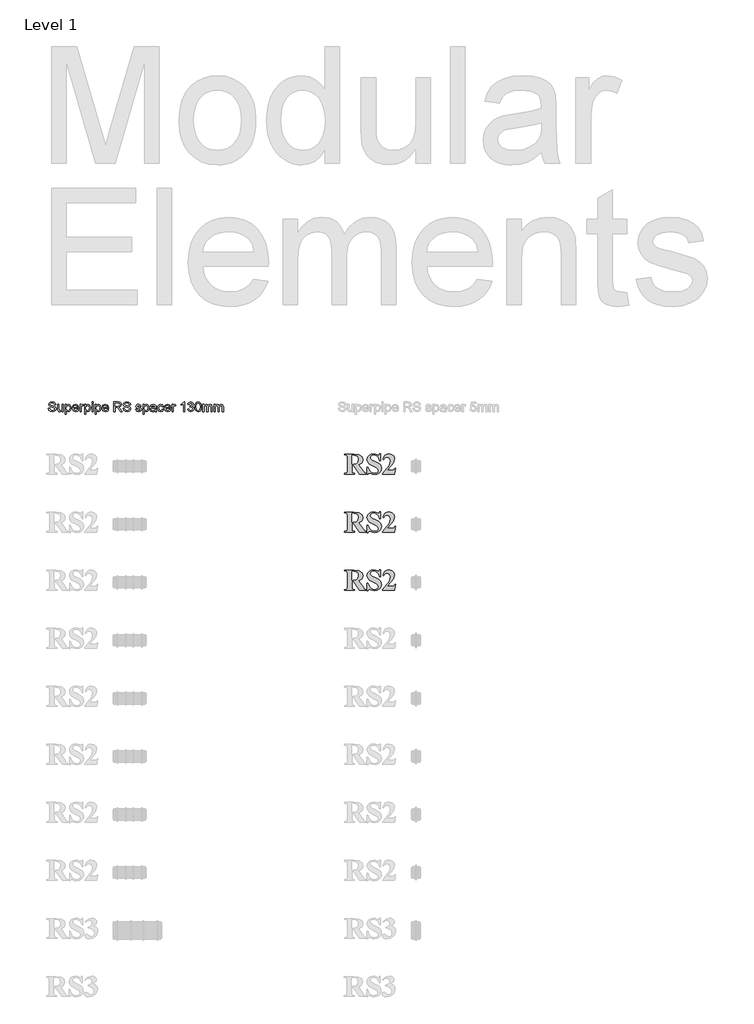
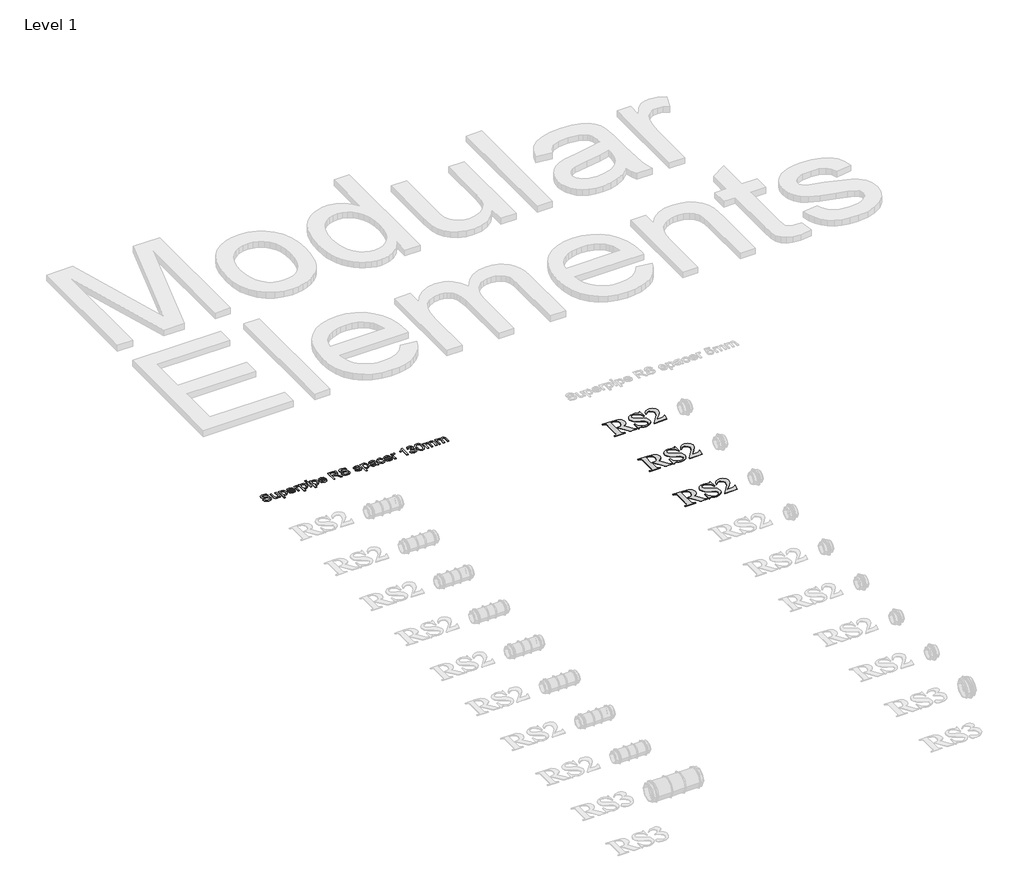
# One storey, part 51 of 57: 4 proxies.
"""IFC4 building model written with IfcOpenShell, lengths in millimetres."""

from ifc_helpers import new_model, si_unit, frame, origin, place, context, project, spatial, polyline, outline, extrude, element, save

model = new_model("IFC4")

# Units and contexts
model_context = context("Model", 3, world=origin())
ifc_project = project(units=[si_unit("LENGTHUNIT", "METRE", prefix="MILLI")], contexts=[model_context])

# Site, building, storey
site = spatial("IfcSite", under=ifc_project)
building = spatial("IfcBuilding", under=site)
storey = spatial("IfcBuildingStorey", under=building, Name="Level 1", Elevation=27.3876384)

# Proxies
placement = place(None, origin())
element("IfcBuildingElementProxy", 1, Name="100mm Arial", ObjectType="100mm Arial", at=placement, inside=storey, context=model_context, shape_type="SweptSolid", body=[
    extrude(outline(polyline([(42400.0811889, 18653.3090579), (42400.0811889, 18623.6453109), (42401.0899744, 18614.034584), (42404.6207237, 18610.8719051), (42414.0405993, 18609.6859006), (42414.0405993, 18606.196048), (42361.6928105, 18606.196048), (42361.6928105, 18609.6859006), (42371.1535827, 18610.8991696), (42374.6434353, 18614.0618485), (42375.6522208, 18623.6453109), (42375.6522208, 18691.6974363), (42374.6434353, 18701.3081631), (42371.112686, 18704.470842), (42361.6928105, 18705.6568466), (42361.6928105, 18709.1466992), (42409.2693164, 18709.1466992), (42436.4383641, 18706.6111032), (42450.4795678, 18697.2457566), (42455.9188303, 18681.2278785), (42454.003501, 18670.9968849), (42448.2575133, 18662.7153011), (42434.5707477, 18655.7628605), (42458.9997158, 18620.946128), (42465.1887512, 18612.3305545), (42471.6231669, 18609.6859006), (42471.6231669, 18606.196048), (42439.88732, 18606.196048), (42406.8427783, 18653.3090579), (42400.0811889, 18653.3090579)]), holes=[polyline([(42400.0811889, 18703.9119203), (42400.0811889, 18658.5438367), (42404.4162402, 18658.5438367), (42420.2432669, 18660.4932466), (42428.4907701, 18667.5138484), (42431.4898622, 18680.7643825), (42430.1130063, 18691.0533131), (42425.9824386, 18698.2545421), (42418.7846176, 18702.4975758), (42408.206002, 18703.9119203), (42400.0811889, 18703.9119203)])]), frame((0.0, 0.0, 27.3876384), z_axis=(0.0, 0.0, 1.0), x_axis=(1.0, 0.0, 0.0)), (0.0, 0.0, 1.0), 2.0),
    extrude(outline(polyline([(42546.6549975, 18710.8916255), (42546.6549975, 18675.9930996), (42543.1651449, 18675.9930996), (42539.1504512, 18688.0678533), (42531.7413306, 18697.5184013), (42522.26011, 18703.6222353), (42512.0291163, 18705.6568466), (42499.0784915, 18701.5535434), (42494.3072087, 18692.1064034), (42496.052135, 18686.0809548), (42503.7679809, 18679.0739851), (42521.7625333, 18670.2402958), (42537.875837, 18661.6792512), (42546.7367909, 18653.6089671), (42551.8897763, 18635.6962081), (42549.3609964, 18623.7816333), (42541.7746567, 18613.6665137), (42530.2894974, 18606.7549697), (42516.0642584, 18604.4511217), (42506.8352342, 18605.5553328), (42495.9158126, 18609.7404295), (42489.890364, 18611.4308268), (42485.6780029, 18609.713165), (42482.0927247, 18604.4511217), (42478.6028721, 18604.4511217), (42478.6028721, 18642.8395001), (42482.0927247, 18642.8395001), (42487.1673247, 18628.5904047), (42495.4659488, 18618.178784), (42505.7616955, 18611.8091214), (42516.8276637, 18609.6859006), (42530.9370286, 18614.2799643), (42536.1854397, 18624.9812701), (42534.072443, 18631.9882397), (42527.6516596, 18638.4226554), (42512.3835545, 18646.3838816), (42491.0354719, 18658.0121795), (42481.8200799, 18668.7134853), (42478.6028721, 18681.718639), (42480.9305765, 18692.948194), (42487.9136897, 18702.3714776), (42498.4411845, 18708.7615885), (42511.4020335, 18710.8916255), (42521.4080952, 18709.6919887), (42530.3644747, 18706.3520907), (42537.7667792, 18703.9119203), (42540.983987, 18705.1115571), (42543.1651449, 18710.8916255), (42546.6549975, 18710.8916255)])), frame((0.0, 0.0, 27.3876384), z_axis=(0.0, 0.0, 1.0), x_axis=(1.0, 0.0, 0.0)), (0.0, 0.0, 1.0), 2.0),
    extrude(outline(polyline([(42618.9876452, 18606.196048), (42557.1245552, 18606.196048), (42557.1245552, 18607.9409743), (42592.8955442, 18652.5456526), (42599.0027862, 18674.9297852), (42593.7816396, 18688.166687), (42581.0354983, 18693.4423626), (42570.0479156, 18690.5114317), (42561.8413091, 18681.718639), (42559.0330683, 18682.7274246), (42564.2917036, 18695.2281856), (42571.7246807, 18703.9937137), (42580.902584, 18709.1671476), (42591.3959982, 18710.8916255), (42605.9279624, 18707.3063472), (42616.2203011, 18697.4911369), (42619.9419017, 18685.80831), (42614.4344781, 18665.6598643), (42602.4312937, 18649.1171451), (42581.5262588, 18627.1351635), (42603.5014243, 18627.1351635), (42614.0391432, 18627.7349819), (42618.0470208, 18629.7798174), (42622.1775885, 18635.8597949), (42625.1766806, 18635.8597949), (42618.9876452, 18606.196048)])), frame((0.0, 0.0, 27.3876384), z_axis=(0.0, 0.0, 1.0), x_axis=(1.0, 0.0, 0.0)), (0.0, 0.0, 1.0), 2.0),
])
element("IfcBuildingElementProxy", 2, Name="100mm Arial", ObjectType="100mm Arial", at=placement, inside=storey, context=model_context, shape_type="SweptSolid", body=[
    extrude(outline(polyline([(42400.0811889, 18353.3090579), (42400.0811889, 18323.6453109), (42401.0899744, 18314.034584), (42404.6207237, 18310.8719051), (42414.0405993, 18309.6859006), (42414.0405993, 18306.196048), (42361.6928105, 18306.196048), (42361.6928105, 18309.6859006), (42371.1535827, 18310.8991696), (42374.6434353, 18314.0618485), (42375.6522208, 18323.6453109), (42375.6522208, 18391.6974363), (42374.6434353, 18401.3081631), (42371.112686, 18404.470842), (42361.6928105, 18405.6568466), (42361.6928105, 18409.1466992), (42409.2693164, 18409.1466992), (42436.4383641, 18406.6111032), (42450.4795678, 18397.2457566), (42455.9188303, 18381.2278785), (42454.003501, 18370.9968849), (42448.2575133, 18362.7153011), (42434.5707477, 18355.7628605), (42458.9997158, 18320.946128), (42465.1887512, 18312.3305545), (42471.6231669, 18309.6859006), (42471.6231669, 18306.196048), (42439.88732, 18306.196048), (42406.8427783, 18353.3090579), (42400.0811889, 18353.3090579)]), holes=[polyline([(42400.0811889, 18403.9119203), (42400.0811889, 18358.5438367), (42404.4162402, 18358.5438367), (42420.2432669, 18360.4932466), (42428.4907701, 18367.5138484), (42431.4898622, 18380.7643825), (42430.1130063, 18391.0533131), (42425.9824386, 18398.2545421), (42418.7846176, 18402.4975758), (42408.206002, 18403.9119203), (42400.0811889, 18403.9119203)])]), frame((0.0, 0.0, 27.3876384), z_axis=(0.0, 0.0, 1.0), x_axis=(1.0, 0.0, 0.0)), (0.0, 0.0, 1.0), 2.0),
    extrude(outline(polyline([(42546.6549975, 18410.8916255), (42546.6549975, 18375.9930996), (42543.1651449, 18375.9930996), (42539.1504512, 18388.0678533), (42531.7413306, 18397.5184013), (42522.26011, 18403.6222353), (42512.0291163, 18405.6568466), (42499.0784915, 18401.5535434), (42494.3072087, 18392.1064034), (42496.052135, 18386.0809548), (42503.7679809, 18379.0739851), (42521.7625333, 18370.2402958), (42537.875837, 18361.6792512), (42546.7367909, 18353.6089671), (42551.8897763, 18335.6962081), (42549.3609964, 18323.7816333), (42541.7746567, 18313.6665137), (42530.2894974, 18306.7549697), (42516.0642584, 18304.4511217), (42506.8352342, 18305.5553328), (42495.9158126, 18309.7404295), (42489.890364, 18311.4308268), (42485.6780029, 18309.713165), (42482.0927247, 18304.4511217), (42478.6028721, 18304.4511217), (42478.6028721, 18342.8395001), (42482.0927247, 18342.8395001), (42487.1673247, 18328.5904047), (42495.4659488, 18318.178784), (42505.7616955, 18311.8091214), (42516.8276637, 18309.6859006), (42530.9370286, 18314.2799643), (42536.1854397, 18324.9812701), (42534.072443, 18331.9882397), (42527.6516596, 18338.4226554), (42512.3835545, 18346.3838816), (42491.0354719, 18358.0121795), (42481.8200799, 18368.7134853), (42478.6028721, 18381.718639), (42480.9305765, 18392.948194), (42487.9136897, 18402.3714776), (42498.4411845, 18408.7615885), (42511.4020335, 18410.8916255), (42521.4080952, 18409.6919887), (42530.3644747, 18406.3520907), (42537.7667792, 18403.9119203), (42540.983987, 18405.1115571), (42543.1651449, 18410.8916255), (42546.6549975, 18410.8916255)])), frame((0.0, 0.0, 27.3876384), z_axis=(0.0, 0.0, 1.0), x_axis=(1.0, 0.0, 0.0)), (0.0, 0.0, 1.0), 2.0),
    extrude(outline(polyline([(42618.9876452, 18306.196048), (42557.1245552, 18306.196048), (42557.1245552, 18307.9409743), (42592.8955442, 18352.5456526), (42599.0027862, 18374.9297852), (42593.7816396, 18388.166687), (42581.0354983, 18393.4423626), (42570.0479156, 18390.5114317), (42561.8413091, 18381.718639), (42559.0330683, 18382.7274246), (42564.2917036, 18395.2281856), (42571.7246807, 18403.9937137), (42580.902584, 18409.1671476), (42591.3959982, 18410.8916255), (42605.9279624, 18407.3063472), (42616.2203011, 18397.4911369), (42619.9419017, 18385.80831), (42614.4344781, 18365.6598643), (42602.4312937, 18349.1171451), (42581.5262588, 18327.1351635), (42603.5014243, 18327.1351635), (42614.0391432, 18327.7349819), (42618.0470208, 18329.7798174), (42622.1775885, 18335.8597949), (42625.1766806, 18335.8597949), (42618.9876452, 18306.196048)])), frame((0.0, 0.0, 27.3876384), z_axis=(0.0, 0.0, 1.0), x_axis=(1.0, 0.0, 0.0)), (0.0, 0.0, 1.0), 2.0),
])
element("IfcBuildingElementProxy", 3, Name="100mm Arial", ObjectType="100mm Arial", at=placement, inside=storey, context=model_context, shape_type="SweptSolid", body=[
    extrude(outline(polyline([(42400.0811889, 18053.3090579), (42400.0811889, 18023.6453109), (42401.0899744, 18014.034584), (42404.6207237, 18010.8719051), (42414.0405993, 18009.6859006), (42414.0405993, 18006.196048), (42361.6928105, 18006.196048), (42361.6928105, 18009.6859006), (42371.1535827, 18010.8991696), (42374.6434353, 18014.0618485), (42375.6522208, 18023.6453109), (42375.6522208, 18091.6974363), (42374.6434353, 18101.3081631), (42371.112686, 18104.470842), (42361.6928105, 18105.6568466), (42361.6928105, 18109.1466992), (42409.2693164, 18109.1466992), (42436.4383641, 18106.6111032), (42450.4795678, 18097.2457566), (42455.9188303, 18081.2278785), (42454.003501, 18070.9968849), (42448.2575133, 18062.7153011), (42434.5707477, 18055.7628605), (42458.9997158, 18020.946128), (42465.1887512, 18012.3305545), (42471.6231669, 18009.6859006), (42471.6231669, 18006.196048), (42439.88732, 18006.196048), (42406.8427783, 18053.3090579), (42400.0811889, 18053.3090579)]), holes=[polyline([(42400.0811889, 18103.9119203), (42400.0811889, 18058.5438367), (42404.4162402, 18058.5438367), (42420.2432669, 18060.4932466), (42428.4907701, 18067.5138484), (42431.4898622, 18080.7643825), (42430.1130063, 18091.0533131), (42425.9824386, 18098.2545421), (42418.7846176, 18102.4975758), (42408.206002, 18103.9119203), (42400.0811889, 18103.9119203)])]), frame((0.0, 0.0, 27.3876384), z_axis=(0.0, 0.0, 1.0), x_axis=(1.0, 0.0, 0.0)), (0.0, 0.0, 1.0), 2.0),
    extrude(outline(polyline([(42546.6549975, 18110.8916255), (42546.6549975, 18075.9930996), (42543.1651449, 18075.9930996), (42539.1504512, 18088.0678533), (42531.7413306, 18097.5184013), (42522.26011, 18103.6222353), (42512.0291163, 18105.6568466), (42499.0784915, 18101.5535434), (42494.3072087, 18092.1064034), (42496.052135, 18086.0809548), (42503.7679809, 18079.0739851), (42521.7625333, 18070.2402958), (42537.875837, 18061.6792512), (42546.7367909, 18053.6089671), (42551.8897763, 18035.6962081), (42549.3609964, 18023.7816333), (42541.7746567, 18013.6665137), (42530.2894974, 18006.7549697), (42516.0642584, 18004.4511217), (42506.8352342, 18005.5553328), (42495.9158126, 18009.7404295), (42489.890364, 18011.4308268), (42485.6780029, 18009.713165), (42482.0927247, 18004.4511217), (42478.6028721, 18004.4511217), (42478.6028721, 18042.8395001), (42482.0927247, 18042.8395001), (42487.1673247, 18028.5904047), (42495.4659488, 18018.178784), (42505.7616955, 18011.8091214), (42516.8276637, 18009.6859006), (42530.9370286, 18014.2799643), (42536.1854397, 18024.9812701), (42534.072443, 18031.9882397), (42527.6516596, 18038.4226554), (42512.3835545, 18046.3838816), (42491.0354719, 18058.0121795), (42481.8200799, 18068.7134853), (42478.6028721, 18081.718639), (42480.9305765, 18092.948194), (42487.9136897, 18102.3714776), (42498.4411845, 18108.7615885), (42511.4020335, 18110.8916255), (42521.4080952, 18109.6919887), (42530.3644747, 18106.3520907), (42537.7667792, 18103.9119203), (42540.983987, 18105.1115571), (42543.1651449, 18110.8916255), (42546.6549975, 18110.8916255)])), frame((0.0, 0.0, 27.3876384), z_axis=(0.0, 0.0, 1.0), x_axis=(1.0, 0.0, 0.0)), (0.0, 0.0, 1.0), 2.0),
    extrude(outline(polyline([(42618.9876452, 18006.196048), (42557.1245552, 18006.196048), (42557.1245552, 18007.9409743), (42592.8955442, 18052.5456526), (42599.0027862, 18074.9297852), (42593.7816396, 18088.166687), (42581.0354983, 18093.4423626), (42570.0479156, 18090.5114317), (42561.8413091, 18081.718639), (42559.0330683, 18082.7274246), (42564.2917036, 18095.2281856), (42571.7246807, 18103.9937137), (42580.902584, 18109.1671476), (42591.3959982, 18110.8916255), (42605.9279624, 18107.3063472), (42616.2203011, 18097.4911369), (42619.9419017, 18085.80831), (42614.4344781, 18065.6598643), (42602.4312937, 18049.1171451), (42581.5262588, 18027.1351635), (42603.5014243, 18027.1351635), (42614.0391432, 18027.7349819), (42618.0470208, 18029.7798174), (42622.1775885, 18035.8597949), (42625.1766806, 18035.8597949), (42618.9876452, 18006.196048)])), frame((0.0, 0.0, 27.3876384), z_axis=(0.0, 0.0, 1.0), x_axis=(1.0, 0.0, 0.0)), (0.0, 0.0, 1.0), 2.0),
])
element("IfcBuildingElementProxy", 4, Name="50mm Arial", ObjectType="50mm Arial", at=placement, inside=storey, context=model_context, shape_type="SweptSolid", body=[
    extrude(outline(polyline([(40829.6871322, 18946.7630144), (40835.9656516, 18946.7630144), (40837.9890026, 18940.4783637), (40842.930884, 18936.5052381), (40850.4602022, 18934.9907906), (40857.0207645, 18936.1373562), (40861.2575388, 18939.2888786), (40862.649359, 18943.5011274), (40861.6070267, 18947.4190707), (40857.3395955, 18950.2701561), (40848.1977279, 18952.6675205), (40838.3568846, 18955.7638606), (40833.0164643, 18960.4359619), (40831.2567621, 18966.6776931), (40833.4333972, 18973.783947), (40839.7916244, 18978.7994049), (40849.0990388, 18980.5100561), (40859.0318527, 18978.7196971), (40865.6537286, 18973.4589846), (40868.1430635, 18965.5985726), (40861.8645441, 18965.5985726), (40858.3083514, 18972.0487702), (40849.3442935, 18974.2315368), (40840.3557101, 18972.0732957), (40837.5352815, 18966.8616341), (40839.534107, 18962.5083638), (40849.7857519, 18959.0012222), (40860.8957881, 18955.8496997), (40866.9719724, 18950.7606655), (40868.9278784, 18943.660543), (40866.6776668, 18936.1496189), (40860.2029437, 18930.6681772), (40850.7054569, 18928.7122712), (40839.4911874, 18930.8214613), (40832.3971963, 18937.1735571), (40829.6871322, 18946.7630144)])), frame((0.0, 0.0, 27.3876384), z_axis=(0.0, 0.0, 1.0), x_axis=(1.0, 0.0, 0.0)), (0.0, 0.0, 1.0), 2.0),
    extrude(outline(polyline([(40901.1052902, 18929.4970861), (40901.1052902, 18935.8369192), (40896.1879342, 18930.4934332), (40889.7745248, 18928.7122712), (40883.8700187, 18929.96307), (40879.7987913, 18933.1023297), (40877.9287245, 18937.7253801), (40877.5608425, 18943.5624411), (40877.5608425, 18966.3833875), (40883.8393619, 18966.3833875), (40883.8393619, 18946.5177598), (40884.2195066, 18940.1166131), (40886.7027101, 18936.3580853), (40891.3809428, 18934.9907906), (40896.6232612, 18936.3887422), (40900.0874834, 18940.1963208), (40901.1052902, 18947.1922101), (40901.1052902, 18966.3833875), (40907.3838096, 18966.3833875), (40907.3838096, 18929.4970861), (40901.1052902, 18929.4970861)])), frame((0.0, 0.0, 27.3876384), z_axis=(0.0, 0.0, 1.0), x_axis=(1.0, 0.0, 0.0)), (0.0, 0.0, 1.0), 2.0),
    extrude(outline(polyline([(40916.0167738, 18915.3704175), (40916.0167738, 18966.3833875), (40922.2952931, 18966.3833875), (40922.2952931, 18960.2274955), (40926.6363007, 18965.4330257), (40932.4978871, 18967.1682024), (40940.456401, 18964.7401813), (40945.6557998, 18957.8975762), (40947.4093707, 18948.2222797), (40945.4289393, 18938.0503425), (40939.6777174, 18931.1218983), (40931.7375977, 18928.7122712), (40926.2745501, 18930.3248206), (40922.2952931, 18934.4021794), (40922.2952931, 18915.3704175), (40916.0167738, 18915.3704175)]), holes=[polyline([(40922.2952931, 18947.6459312), (40925.0114885, 18938.0809994), (40931.6027076, 18934.9907906), (40938.3288168, 18938.191364), (40941.1308513, 18948.1119151), (40938.3962618, 18957.7013724), (40931.860225, 18960.8896831), (40925.1954295, 18957.4990373), (40922.2952931, 18947.6459312)])]), frame((0.0, 0.0, 27.3876384), z_axis=(0.0, 0.0, 1.0), x_axis=(1.0, 0.0, 0.0)), (0.0, 0.0, 1.0), 2.0),
    extrude(outline(polyline([(40980.298021, 18940.4844951), (40986.4539131, 18939.6996801), (40980.6965599, 18931.5940135), (40969.9727997, 18928.7122712), (40956.9375144, 18933.6848095), (40952.1182602, 18947.6336685), (40956.9865653, 18962.04238), (40969.6171805, 18967.1682024), (40981.886045, 18962.0546427), (40986.6501168, 18947.6704567), (40986.6133286, 18945.9781995), (40958.3967796, 18945.9781995), (40962.0081545, 18937.823482), (40970.095427, 18934.9907906), (40976.2513191, 18936.3029031), (40980.298021, 18940.4844951)]), holes=[polyline([(40958.3967796, 18952.2567189), (40980.3715974, 18952.2567189), (40977.8577371, 18957.9466271), (40969.592655, 18960.8896831), (40961.8610017, 18958.5413697), (40958.3967796, 18952.2567189)])]), frame((0.0, 0.0, 27.3876384), z_axis=(0.0, 0.0, 1.0), x_axis=(1.0, 0.0, 0.0)), (0.0, 0.0, 1.0), 2.0),
    extrude(outline(polyline([(40992.9286362, 18929.4970861), (40992.9286362, 18966.3833875), (40998.4223407, 18966.3833875), (40998.4223407, 18960.9264713), (41002.3218898, 18965.9541919), (41006.2459644, 18967.1682024), (41012.5490093, 18965.2306906), (41010.4520819, 18959.6020961), (41006.037498, 18960.8896831), (41002.4874367, 18959.651147), (41000.2249625, 18956.2175817), (40999.2071556, 18948.8844673), (40999.2071556, 18929.4970861), (40992.9286362, 18929.4970861)])), frame((0.0, 0.0, 27.3876384), z_axis=(0.0, 0.0, 1.0), x_axis=(1.0, 0.0, 0.0)), (0.0, 0.0, 1.0), 2.0),
    extrude(outline(polyline([(41016.4730839, 18915.3704175), (41016.4730839, 18966.3833875), (41022.7516033, 18966.3833875), (41022.7516033, 18960.2274955), (41027.0926108, 18965.4330257), (41032.9541973, 18967.1682024), (41040.9127111, 18964.7401813), (41046.11211, 18957.8975762), (41047.8656808, 18948.2222797), (41045.8852494, 18938.0503425), (41040.1340276, 18931.1218983), (41032.1939078, 18928.7122712), (41026.7308602, 18930.3248206), (41022.7516033, 18934.4021794), (41022.7516033, 18915.3704175), (41016.4730839, 18915.3704175)]), holes=[polyline([(41022.7516033, 18947.6459312), (41025.4677987, 18938.0809994), (41032.0590178, 18934.9907906), (41038.7851269, 18938.191364), (41041.5871614, 18948.1119151), (41038.8525719, 18957.7013724), (41032.3165352, 18960.8896831), (41025.6517397, 18957.4990373), (41022.7516033, 18947.6459312)])]), frame((0.0, 0.0, 27.3876384), z_axis=(0.0, 0.0, 1.0), x_axis=(1.0, 0.0, 0.0)), (0.0, 0.0, 1.0), 2.0),
    extrude(outline(polyline([(41054.9290151, 18929.4970861), (41054.9290151, 18966.3833875), (41061.2075345, 18966.3833875), (41061.2075345, 18929.4970861), (41054.9290151, 18929.4970861)])), frame((0.0, 0.0, 27.3876384), z_axis=(0.0, 0.0, 1.0), x_axis=(1.0, 0.0, 0.0)), (0.0, 0.0, 1.0), 2.0),
    extrude(outline(polyline([(41054.9290151, 18973.4467218), (41054.9290151, 18979.7252412), (41061.2075345, 18979.7252412), (41061.2075345, 18973.4467218), (41054.9290151, 18973.4467218)])), frame((0.0, 0.0, 27.3876384), z_axis=(0.0, 0.0, 1.0), x_axis=(1.0, 0.0, 0.0)), (0.0, 0.0, 1.0), 2.0),
    extrude(outline(polyline([(41070.6253136, 18915.3704175), (41070.6253136, 18966.3833875), (41076.903833, 18966.3833875), (41076.903833, 18960.2274955), (41081.2448405, 18965.4330257), (41087.106427, 18967.1682024), (41095.0649408, 18964.7401813), (41100.2643397, 18957.8975762), (41102.0179105, 18948.2222797), (41100.0374791, 18938.0503425), (41094.2862573, 18931.1218983), (41086.3461375, 18928.7122712), (41080.8830899, 18930.3248206), (41076.903833, 18934.4021794), (41076.903833, 18915.3704175), (41070.6253136, 18915.3704175)]), holes=[polyline([(41076.903833, 18947.6459312), (41079.6200284, 18938.0809994), (41086.2112475, 18934.9907906), (41092.9373566, 18938.191364), (41095.7393911, 18948.1119151), (41093.0048016, 18957.7013724), (41086.4687649, 18960.8896831), (41079.8039694, 18957.4990373), (41076.903833, 18947.6459312)])]), frame((0.0, 0.0, 27.3876384), z_axis=(0.0, 0.0, 1.0), x_axis=(1.0, 0.0, 0.0)), (0.0, 0.0, 1.0), 2.0),
    extrude(outline(polyline([(41134.9065609, 18940.4844951), (41141.0624529, 18939.6996801), (41135.3050997, 18931.5940135), (41124.5813396, 18928.7122712), (41111.5460542, 18933.6848095), (41106.7268001, 18947.6336685), (41111.5951051, 18962.04238), (41124.2257203, 18967.1682024), (41136.4945848, 18962.0546427), (41141.2586567, 18947.6704567), (41141.2218685, 18945.9781995), (41113.0053194, 18945.9781995), (41116.6166944, 18937.823482), (41124.7039669, 18934.9907906), (41130.8598589, 18936.3029031), (41134.9065609, 18940.4844951)]), holes=[polyline([(41113.0053194, 18952.2567189), (41134.9801373, 18952.2567189), (41132.466277, 18957.9466271), (41124.2011948, 18960.8896831), (41116.4695416, 18958.5413697), (41113.0053194, 18952.2567189)])]), frame((0.0, 0.0, 27.3876384), z_axis=(0.0, 0.0, 1.0), x_axis=(1.0, 0.0, 0.0)), (0.0, 0.0, 1.0), 2.0),
    extrude(outline(polyline([(41167.9423641, 18929.4970861), (41167.9423641, 18979.7252412), (41189.5860881, 18979.7252412), (41199.6353979, 18978.3702092), (41205.1291024, 18973.5754805), (41207.1831102, 18965.9787173), (41203.7802018, 18956.9288202), (41193.2649081, 18952.2567189), (41196.8333634, 18949.5711803), (41201.9223977, 18943.10872), (41210.2978444, 18929.4970861), (41203.0015182, 18929.4970861), (41196.4654814, 18939.9081466), (41191.7443291, 18946.7998026), (41188.4272598, 18950.0555583), (41185.4412843, 18951.2511748), (41181.7992525, 18951.471904), (41174.2208834, 18951.471904), (41174.2208834, 18929.4970861), (41167.9423641, 18929.4970861)]), holes=[polyline([(41174.2208834, 18957.7504234), (41188.2739757, 18957.7504234), (41195.4415432, 18958.6394715), (41199.5127706, 18961.4844256), (41200.9045908, 18965.7457254), (41198.2497091, 18971.2762181), (41189.8558682, 18973.4467218), (41174.2208834, 18973.4467218), (41174.2208834, 18957.7504234)])]), frame((0.0, 0.0, 27.3876384), z_axis=(0.0, 0.0, 1.0), x_axis=(1.0, 0.0, 0.0)), (0.0, 0.0, 1.0), 2.0),
    extrude(outline(polyline([(41215.8160744, 18946.7630144), (41222.0945937, 18946.7630144), (41224.1179447, 18940.4783637), (41229.0598262, 18936.5052381), (41236.5891444, 18934.9907906), (41243.1497066, 18936.1373562), (41247.3864809, 18939.2888786), (41248.7783011, 18943.5011274), (41247.7359688, 18947.4190707), (41243.4685377, 18950.2701561), (41234.3266701, 18952.6675205), (41224.4858267, 18955.7638606), (41219.1454064, 18960.4359619), (41217.3857042, 18966.6776931), (41219.5623393, 18973.783947), (41225.9205665, 18978.7994049), (41235.227981, 18980.5100561), (41245.1607948, 18978.7196971), (41251.7826708, 18973.4589846), (41254.2720056, 18965.5985726), (41247.9934862, 18965.5985726), (41244.4372936, 18972.0487702), (41235.4732356, 18974.2315368), (41226.4846522, 18972.0732957), (41223.6642236, 18966.8616341), (41225.6630491, 18962.5083638), (41235.914694, 18959.0012222), (41247.0247303, 18955.8496997), (41253.1009146, 18950.7606655), (41255.0568205, 18943.660543), (41252.806609, 18936.1496189), (41246.3318859, 18930.6681772), (41236.834399, 18928.7122712), (41225.6201295, 18930.8214613), (41218.5261384, 18937.1735571), (41215.8160744, 18946.7630144)])), frame((0.0, 0.0, 27.3876384), z_axis=(0.0, 0.0, 1.0), x_axis=(1.0, 0.0, 0.0)), (0.0, 0.0, 1.0), 2.0),
    extrude(outline(polyline([(41280.955713, 18940.4844951), (41287.2342324, 18941.26931), (41290.1405001, 18936.6094714), (41296.7991642, 18934.9907906), (41303.2003109, 18936.4745813), (41305.2849756, 18939.9571975), (41303.1880482, 18942.7776262), (41296.7255878, 18944.5679852), (41287.2710206, 18947.6397999), (41283.1446108, 18951.2266493), (41281.7405279, 18956.2911581), (41282.8686993, 18960.9693908), (41285.9466454, 18964.5439775), (41289.938165, 18966.4017816), (41295.339899, 18967.1682024), (41302.9795818, 18965.9357978), (41307.8356241, 18962.6003343), (41309.9938651, 18956.9656084), (41303.7153457, 18956.1807935), (41301.3547696, 18959.6450156), (41295.8304083, 18960.8896831), (41289.8216691, 18959.7001979), (41288.0190473, 18956.9288202), (41288.767074, 18955.101673), (41291.109256, 18953.7159842), (41296.5171214, 18952.3793462), (41305.7325653, 18949.4240275), (41310.0122592, 18946.0763014), (41311.563495, 18940.6193851), (41309.7424791, 18934.6106459), (41304.4878979, 18930.2512442), (41296.7133251, 18928.7122712), (41285.7627044, 18931.6798526), (41280.955713, 18940.4844951)])), frame((0.0, 0.0, 27.3876384), z_axis=(0.0, 0.0, 1.0), x_axis=(1.0, 0.0, 0.0)), (0.0, 0.0, 1.0), 2.0),
    extrude(outline(polyline([(41318.6268293, 18915.3704175), (41318.6268293, 18966.3833875), (41324.9053487, 18966.3833875), (41324.9053487, 18960.2274955), (41329.2463562, 18965.4330257), (41335.1079427, 18967.1682024), (41343.0664565, 18964.7401813), (41348.2658554, 18957.8975762), (41350.0194262, 18948.2222797), (41348.0389948, 18938.0503425), (41342.2877729, 18931.1218983), (41334.3476532, 18928.7122712), (41328.8846056, 18930.3248206), (41324.9053487, 18934.4021794), (41324.9053487, 18915.3704175), (41318.6268293, 18915.3704175)]), holes=[polyline([(41324.9053487, 18947.6459312), (41327.6215441, 18938.0809994), (41334.2127631, 18934.9907906), (41340.9388723, 18938.191364), (41343.7409068, 18948.1119151), (41341.0063173, 18957.7013724), (41334.4702805, 18960.8896831), (41327.8054851, 18957.4990373), (41324.9053487, 18947.6459312)])]), frame((0.0, 0.0, 27.3876384), z_axis=(0.0, 0.0, 1.0), x_axis=(1.0, 0.0, 0.0)), (0.0, 0.0, 1.0), 2.0),
    extrude(outline(polyline([(41380.6272082, 18934.2059757), (41374.5387612, 18929.9508073), (41367.812652, 18928.7122712), (41358.6953099, 18931.6921154), (41355.5131307, 18939.3072727), (41356.7148785, 18944.2736796), (41359.8725323, 18947.8789232), (41364.2687221, 18949.9390623), (41369.7011129, 18950.8832928), (41380.59042, 18953.0415338), (41378.8981628, 18959.0747986), (41371.9574558, 18960.8896831), (41365.6053601, 18959.6818038), (41362.576465, 18955.3959786), (41356.2979456, 18956.1807935), (41359.014141, 18962.3121601), (41364.48332, 18965.9051409), (41372.7667962, 18967.1682024), (41380.3758222, 18966.0522937), (41384.6739101, 18963.2502592), (41386.5991593, 18958.9889594), (41386.9057276, 18953.495255), (41386.9057276, 18945.6838939), (41387.2245586, 18934.7761928), (41388.4753574, 18929.4970861), (41382.196838, 18929.4970861), (41380.6272082, 18934.2059757)]), holes=[polyline([(41380.6272082, 18946.7630144), (41370.4981906, 18944.8377653), (41365.0964566, 18943.8199585), (41362.6500414, 18942.1644895), (41361.79165, 18939.7487311), (41363.6617169, 18936.351954), (41369.1492899, 18934.9907906), (41375.5013857, 18936.4929754), (41379.5971386, 18940.1288758), (41380.59042, 18944.9849181), (41380.6272082, 18946.7630144)])]), frame((0.0, 0.0, 27.3876384), z_axis=(0.0, 0.0, 1.0), x_axis=(1.0, 0.0, 0.0)), (0.0, 0.0, 1.0), 2.0),
    extrude(outline(polyline([(41419.0831394, 18942.8389398), (41425.3616588, 18942.0541249), (41420.3216755, 18932.2500697), (41410.3643361, 18928.7122712), (41398.4633536, 18933.6480213), (41393.9690619, 18947.8053468), (41395.8881796, 18958.2348013), (41401.7375034, 18964.936385), (41410.278497, 18967.1682024), (41419.8250348, 18964.1025192), (41424.5768439, 18955.3959786), (41418.2983245, 18954.6111637), (41415.3859254, 18959.3139218), (41410.3275479, 18960.8896831), (41403.0496158, 18957.7872116), (41400.2475813, 18947.977025), (41402.9883021, 18938.074868), (41410.1558697, 18934.9907906), (41416.0726384, 18936.9160397), (41419.0831394, 18942.8389398)])), frame((0.0, 0.0, 27.3876384), z_axis=(0.0, 0.0, 1.0), x_axis=(1.0, 0.0, 0.0)), (0.0, 0.0, 1.0), 2.0),
    extrude(outline(polyline([(41456.6806793, 18940.4844951), (41462.8365714, 18939.6996801), (41457.0792182, 18931.5940135), (41446.355458, 18928.7122712), (41433.3201726, 18933.6848095), (41428.5009185, 18947.6336685), (41433.3692236, 18962.04238), (41445.9998387, 18967.1682024), (41458.2687033, 18962.0546427), (41463.0327751, 18947.6704567), (41462.9959869, 18945.9781995), (41434.7794379, 18945.9781995), (41438.3908128, 18937.823482), (41446.4780853, 18934.9907906), (41452.6339774, 18936.3029031), (41456.6806793, 18940.4844951)]), holes=[polyline([(41434.7794379, 18952.2567189), (41456.7542557, 18952.2567189), (41454.2403954, 18957.9466271), (41445.9753133, 18960.8896831), (41438.24366, 18958.5413697), (41434.7794379, 18952.2567189)])]), frame((0.0, 0.0, 27.3876384), z_axis=(0.0, 0.0, 1.0), x_axis=(1.0, 0.0, 0.0)), (0.0, 0.0, 1.0), 2.0),
    extrude(outline(polyline([(41469.3112945, 18929.4970861), (41469.3112945, 18966.3833875), (41474.804999, 18966.3833875), (41474.804999, 18960.9264713), (41478.7045481, 18965.9541919), (41482.6286227, 18967.1682024), (41488.9316676, 18965.2306906), (41486.8347402, 18959.6020961), (41482.4201563, 18960.8896831), (41478.870095, 18959.651147), (41476.6076207, 18956.2175817), (41475.5898139, 18948.8844673), (41475.5898139, 18929.4970861), (41469.3112945, 18929.4970861)])), frame((0.0, 0.0, 27.3876384), z_axis=(0.0, 0.0, 1.0), x_axis=(1.0, 0.0, 0.0)), (0.0, 0.0, 1.0), 2.0),
    extrude(outline(polyline([(41534.4509331, 18929.4970861), (41528.1724137, 18929.4970861), (41528.1724137, 18968.6397304), (41522.2249881, 18964.4029561), (41515.615375, 18961.2330396), (41515.615375, 18967.1682024), (41524.8185562, 18973.0420516), (41530.4042312, 18979.7252412), (41534.4509331, 18979.7252412), (41534.4509331, 18929.4970861)])), frame((0.0, 0.0, 27.3876384), z_axis=(0.0, 0.0, 1.0), x_axis=(1.0, 0.0, 0.0)), (0.0, 0.0, 1.0), 2.0),
    extrude(outline(polyline([(41549.3624167, 18942.8389398), (41555.640936, 18943.6237548), (41559.1051582, 18937.0141416), (41565.5860126, 18934.9907906), (41573.2134327, 18937.774431), (41576.046124, 18944.6660871), (41573.2379581, 18951.1592043), (41566.1010474, 18953.7282469), (41561.6987262, 18953.0415338), (41562.397702, 18959.3200532), (41570.5278941, 18961.0490986), (41573.6916793, 18966.591854), (41571.3985482, 18971.5030786), (41565.4879108, 18973.4467218), (41559.503697, 18971.4846845), (41556.425751, 18965.5985726), (41550.1472316, 18966.3833875), (41555.2853168, 18976.2303623), (41565.2671816, 18979.7252412), (41572.8394193, 18978.0023272), (41578.13692, 18973.2934377), (41579.9701987, 18966.959736), (41578.2288905, 18961.1717259), (41573.0785426, 18957.0146594), (41579.9211477, 18952.7227028), (41582.3246434, 18944.5557225), (41577.517652, 18933.3230589), (41565.3652834, 18928.7122712), (41554.3533491, 18932.6486086), (41549.3624167, 18942.8389398)])), frame((0.0, 0.0, 27.3876384), z_axis=(0.0, 0.0, 1.0), x_axis=(1.0, 0.0, 0.0)), (0.0, 0.0, 1.0), 2.0),
    extrude(outline(polyline([(41587.8183479, 18954.2064935), (41589.6638892, 18968.6581245), (41595.145331, 18976.9906517), (41604.2994613, 18979.7252412), (41611.6325757, 18978.1065604), (41616.6970845, 18973.4405905), (41619.6401405, 18966.0093742), (41620.7805747, 18954.2064935), (41618.9534274, 18939.8161761), (41613.4903798, 18931.4652548), (41604.2994613, 18928.7122712), (41592.821543, 18933.4947372), (41589.0691467, 18941.9897456), (41587.8183479, 18954.2064935)]), holes=[polyline([(41594.0968673, 18954.2187562), (41597.0399232, 18938.626691), (41604.2994613, 18934.9907906), (41611.5589993, 18938.6389537), (41614.5020553, 18954.2187562), (41611.6571012, 18969.6330118), (41604.2258849, 18973.4467218), (41597.1380251, 18970.0867329), (41594.0968673, 18954.2187562)])]), frame((0.0, 0.0, 27.3876384), z_axis=(0.0, 0.0, 1.0), x_axis=(1.0, 0.0, 0.0)), (0.0, 0.0, 1.0), 2.0),
    extrude(outline(polyline([(41627.843909, 18929.4970861), (41627.843909, 18966.3833875), (41634.1224283, 18966.3833875), (41634.1224283, 18960.3133346), (41638.4389104, 18965.2858729), (41644.5825397, 18967.1682024), (41650.8733219, 18965.2490847), (41654.3314126, 18959.8718762), (41659.2303745, 18965.3441209), (41665.4169234, 18967.1682024), (41673.6268233, 18964.133176), (41676.5024342, 18954.7828419), (41676.5024342, 18929.4970861), (41670.2239148, 18929.4970861), (41670.2239148, 18952.0850406), (41669.641435, 18957.3273591), (41667.5322449, 18959.9086644), (41663.9453954, 18960.8896831), (41657.7711093, 18958.3758228), (41655.3124313, 18950.3192071), (41655.3124313, 18929.4970861), (41649.0339119, 18929.4970861), (41649.0339119, 18952.7840164), (41647.580778, 18958.8663321), (41642.8167062, 18960.8896831), (41638.1691303, 18959.5407824), (41635.0789215, 18955.5921823), (41634.1224283, 18948.0996524), (41634.1224283, 18929.4970861), (41627.843909, 18929.4970861)])), frame((0.0, 0.0, 27.3876384), z_axis=(0.0, 0.0, 1.0), x_axis=(1.0, 0.0, 0.0)), (0.0, 0.0, 1.0), 2.0),
    extrude(outline(polyline([(41685.9202133, 18929.4970861), (41685.9202133, 18966.3833875), (41692.1987326, 18966.3833875), (41692.1987326, 18960.3133346), (41696.5152147, 18965.2858729), (41702.658844, 18967.1682024), (41708.9496262, 18965.2490847), (41712.4077169, 18959.8718762), (41717.3066788, 18965.3441209), (41723.4932277, 18967.1682024), (41731.7031276, 18964.133176), (41734.5787385, 18954.7828419), (41734.5787385, 18929.4970861), (41728.3002191, 18929.4970861), (41728.3002191, 18952.0850406), (41727.7177393, 18957.3273591), (41725.6085492, 18959.9086644), (41722.0216997, 18960.8896831), (41715.8474136, 18958.3758228), (41713.3887356, 18950.3192071), (41713.3887356, 18929.4970861), (41707.1102162, 18929.4970861), (41707.1102162, 18952.7840164), (41705.6570823, 18958.8663321), (41700.8930105, 18960.8896831), (41696.2454346, 18959.5407824), (41693.1552258, 18955.5921823), (41692.1987326, 18948.0996524), (41692.1987326, 18929.4970861), (41685.9202133, 18929.4970861)])), frame((0.0, 0.0, 27.3876384), z_axis=(0.0, 0.0, 1.0), x_axis=(1.0, 0.0, 0.0)), (0.0, 0.0, 1.0), 2.0),
])

save(model, "model.ifc")
